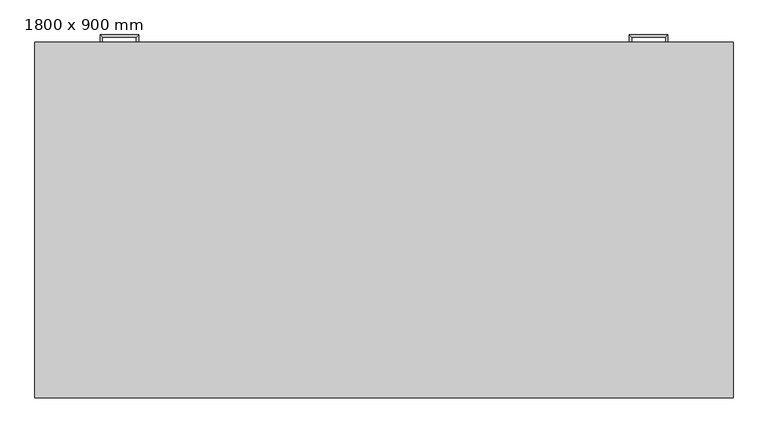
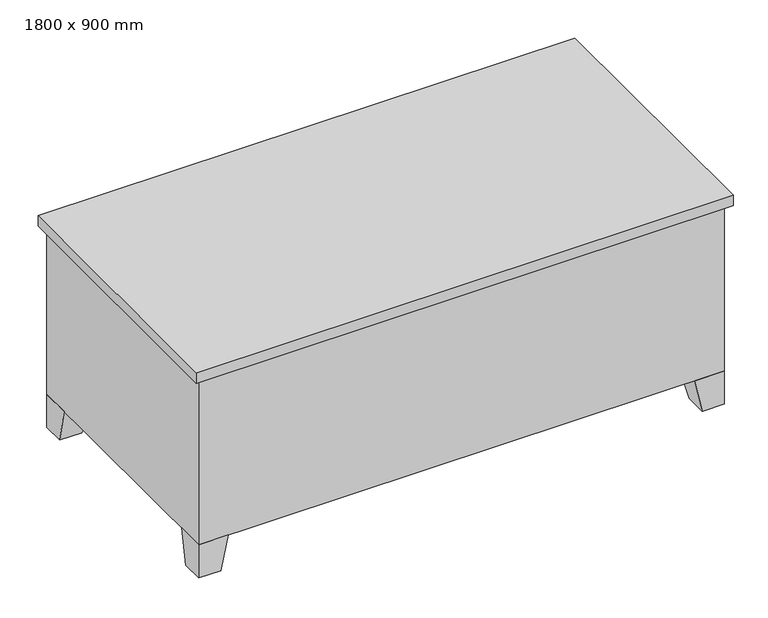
"""IFC4 building model written with IfcOpenShell, lengths in millimetres: furniture geometry, 辦公桌 (1) : 1800 x 900 mm."""

from ifc_helpers import new_model, si_unit, frame, origin, place, context, project, spatial, polyline, outline, extrude, faceted_brep, source, transform, mapped, element, save


def furniture_1800_x_900_mm_2e0cac71(model_context):
    return source(origin(), model_context, "Body", "SolidModel", [
        extrude(outline(polyline([(1780.95, 900.0), (1412.65, 900.0), (1412.65, 912.7), (1780.95, 912.7), (1780.95, 900.0)])), frame((0.0, 0.0, 603.25), z_axis=(0.0, 0.0, 1.0), x_axis=(1.0, 0.0, 0.0)), (0.0, 0.0, 1.0), 101.6),
        extrude(outline(polyline([(1780.95, 900.0), (1412.65, 900.0), (1412.65, 912.7), (1780.95, 912.7), (1780.95, 900.0)])), frame((0.0, 0.0, 139.05), z_axis=(0.0, 0.0, 1.0), x_axis=(1.0, 0.0, 0.0)), (0.0, 0.0, 1.0), 445.15),
        extrude(outline(polyline([(387.35, 900.0), (19.05, 900.0), (19.05, 912.7), (387.35, 912.7), (387.35, 900.0)])), frame((0.0, 0.0, 570.85), z_axis=(0.0, 0.0, 1.0), x_axis=(1.0, 0.0, 0.0)), (0.0, 0.0, 1.0), 134.0),
        extrude(outline(polyline([(387.35, 900.0), (19.05, 900.0), (19.05, 912.7), (387.35, 912.7), (387.35, 900.0)])), frame((0.0, 0.0, 139.05), z_axis=(0.0, 0.0, 1.0), x_axis=(1.0, 0.0, 0.0)), (0.0, 0.0, 1.0), 171.45),
        extrude(outline(polyline([(387.35, 900.0), (19.05, 900.0), (19.05, 912.7), (387.35, 912.7), (387.35, 900.0)])), frame((0.0, 0.0, 450.2), z_axis=(0.0, 0.0, 1.0), x_axis=(1.0, 0.0, 0.0)), (0.0, 0.0, 1.0), 101.6),
        extrude(outline(polyline([(387.35, 900.0), (19.05, 900.0), (19.05, 912.7), (387.35, 912.7), (387.35, 900.0)])), frame((0.0, 0.0, 329.55), z_axis=(0.0, 0.0, 1.0), x_axis=(1.0, 0.0, 0.0)), (0.0, 0.0, 1.0), 101.6),
        faceted_brep([(1698.4, 900.0, 120.0), (1698.4, 798.4, 120.0), (1800.0, 798.4, 120.0), (1800.0, 900.0, 120.0), (1723.8, 900.0, 0.0), (1800.0, 900.0, 0.0), (1800.0, 823.8, 0.0), (1723.8, 823.8, 0.0)], [[[0, 1, 2, 3]], [[4, 5, 6, 7]], [[4, 7, 1, 0]], [[7, 6, 2, 1]], [[6, 5, 3, 2]], [[5, 4, 0, 3]]]),
        faceted_brep([(1698.4, 0.0, 120.0), (1800.0, 0.0, 120.0), (1800.0, 101.6, 120.0), (1698.4, 101.6, 120.0), (1723.8, 0.0, 0.0), (1723.8, 76.2, 0.0), (1800.0, 76.2, 0.0), (1800.0, 0.0, 0.0)], [[[0, 1, 2, 3]], [[4, 5, 6, 7]], [[4, 7, 1, 0]], [[7, 6, 2, 1]], [[6, 5, 3, 2]], [[5, 4, 0, 3]]]),
        faceted_brep([(101.6, 0.0, 120.0), (101.6, 101.6, 120.0), (0.0, 101.6, 120.0), (0.0, 0.0, 120.0), (76.2, 0.0, 0.0), (0.0, 0.0, 0.0), (0.0, 76.2, 0.0), (76.2, 76.2, 0.0)], [[[0, 1, 2, 3]], [[4, 5, 6, 7]], [[4, 7, 1, 0]], [[7, 6, 2, 1]], [[6, 5, 3, 2]], [[5, 4, 0, 3]]]),
        faceted_brep([(101.6, 900.0, 120.0), (0.0, 900.0, 120.0), (0.0, 798.4, 120.0), (101.6, 798.4, 120.0), (76.2, 900.0, 0.0), (76.2, 823.8, 0.0), (0.0, 823.8, 0.0), (0.0, 900.0, 0.0)], [[[0, 1, 2, 3]], [[4, 5, 6, 7]], [[4, 7, 1, 0]], [[7, 6, 2, 1]], [[6, 5, 3, 2]], [[5, 4, 0, 3]]]),
        extrude(outline(polyline([(1819.05, 919.05), (1819.05, -19.05), (-19.05, -19.05), (-19.05, 919.05), (1819.05, 919.05)])), frame((0.0, 0.0, 723.9), z_axis=(0.0, 0.0, 1.0), x_axis=(1.0, 0.0, 0.0)), (0.0, 0.0, 1.0), 38.1),
        extrude(outline(polyline([(406.4, 900.0), (406.4, 50.8), (1393.6, 50.8), (1393.6, 900.0), (1800.0, 900.0), (1800.0, 0.0), (0.0, 0.0), (0.0, 900.0), (406.4, 900.0)])), frame((0.0, 0.0, 120.0), z_axis=(0.0, 0.0, 1.0), x_axis=(1.0, 0.0, 0.0)), (0.0, 0.0, 1.0), 603.9),
        faceted_brep([(1641.25, 912.7, 546.1), (1641.25, 912.7, 533.4), (1647.6, 912.7, 533.4), (1647.6, 912.7, 546.1), (1641.25, 931.75, 546.1), (1641.25, 931.75, 533.4), (1647.6, 938.1, 533.4), (1647.6, 938.1, 546.1), (1552.35, 931.75, 546.1), (1552.35, 931.75, 533.4), (1546.0, 938.1, 533.4), (1546.0, 938.1, 546.1), (1552.35, 912.7, 546.1), (1546.0, 912.7, 546.1), (1546.0, 912.7, 533.4), (1552.35, 912.7, 533.4)], [[[0, 1, 2, 3]], [[1, 0, 4, 5]], [[2, 1, 5, 6]], [[3, 2, 6, 7]], [[0, 3, 7, 4]], [[5, 4, 8, 9]], [[6, 5, 9, 10]], [[7, 6, 10, 11]], [[4, 7, 11, 8]], [[12, 13, 14, 15]], [[9, 8, 12, 15]], [[10, 9, 15, 14]], [[11, 10, 14, 13]], [[8, 11, 13, 12]]]),
        faceted_brep([(1641.25, 912.7, 666.75), (1641.25, 912.7, 654.05), (1647.6, 912.7, 654.05), (1647.6, 912.7, 666.75), (1641.25, 931.75, 666.75), (1641.25, 931.75, 654.05), (1647.6, 938.1, 654.05), (1647.6, 938.1, 666.75), (1552.35, 931.75, 666.75), (1552.35, 931.75, 654.05), (1546.0, 938.1, 654.05), (1546.0, 938.1, 666.75), (1552.35, 912.7, 666.75), (1546.0, 912.7, 666.75), (1546.0, 912.7, 654.05), (1552.35, 912.7, 654.05)], [[[0, 1, 2, 3]], [[1, 0, 4, 5]], [[2, 1, 5, 6]], [[3, 2, 6, 7]], [[0, 3, 7, 4]], [[5, 4, 8, 9]], [[6, 5, 9, 10]], [[7, 6, 10, 11]], [[4, 7, 11, 8]], [[12, 13, 14, 15]], [[9, 8, 12, 15]], [[10, 9, 15, 14]], [[11, 10, 14, 13]], [[8, 11, 13, 12]]]),
        faceted_brep([(158.75, 912.7, 304.8), (152.4, 912.7, 304.8), (152.4, 912.7, 292.1), (158.75, 912.7, 292.1), (158.75, 931.75, 304.8), (152.4, 938.1, 304.8), (152.4, 938.1, 292.1), (158.75, 931.75, 292.1), (247.65, 931.75, 304.8), (254.0, 938.1, 304.8), (254.0, 938.1, 292.1), (247.65, 931.75, 292.1), (247.65, 912.7, 304.8), (247.65, 912.7, 292.1), (254.0, 912.7, 292.1), (254.0, 912.7, 304.8)], [[[0, 1, 2, 3]], [[1, 0, 4, 5]], [[2, 1, 5, 6]], [[3, 2, 6, 7]], [[0, 3, 7, 4]], [[5, 4, 8, 9]], [[6, 5, 9, 10]], [[7, 6, 10, 11]], [[4, 7, 11, 8]], [[12, 13, 14, 15]], [[9, 8, 12, 15]], [[10, 9, 15, 14]], [[11, 10, 14, 13]], [[8, 11, 13, 12]]]),
        faceted_brep([(158.75, 912.7, 425.45), (152.4, 912.7, 425.45), (152.4, 912.7, 412.75), (158.75, 912.7, 412.75), (158.75, 931.75, 425.45), (152.4, 938.1, 425.45), (152.4, 938.1, 412.75), (158.75, 931.75, 412.75), (247.65, 931.75, 425.45), (254.0, 938.1, 425.45), (254.0, 938.1, 412.75), (247.65, 931.75, 412.75), (247.65, 912.7, 425.45), (247.65, 912.7, 412.75), (254.0, 912.7, 412.75), (254.0, 912.7, 425.45)], [[[0, 1, 2, 3]], [[1, 0, 4, 5]], [[2, 1, 5, 6]], [[3, 2, 6, 7]], [[0, 3, 7, 4]], [[5, 4, 8, 9]], [[6, 5, 9, 10]], [[7, 6, 10, 11]], [[4, 7, 11, 8]], [[12, 13, 14, 15]], [[9, 8, 12, 15]], [[10, 9, 15, 14]], [[11, 10, 14, 13]], [[8, 11, 13, 12]]]),
        faceted_brep([(158.75, 912.7, 546.1), (152.4, 912.7, 546.1), (152.4, 912.7, 533.4), (158.75, 912.7, 533.4), (158.75, 931.75, 546.1), (152.4, 938.1, 546.1), (152.4, 938.1, 533.4), (158.75, 931.75, 533.4), (247.65, 931.75, 546.1), (254.0, 938.1, 546.1), (254.0, 938.1, 533.4), (247.65, 931.75, 533.4), (247.65, 912.7, 546.1), (247.65, 912.7, 533.4), (254.0, 912.7, 533.4), (254.0, 912.7, 546.1)], [[[0, 1, 2, 3]], [[1, 0, 4, 5]], [[2, 1, 5, 6]], [[3, 2, 6, 7]], [[0, 3, 7, 4]], [[5, 4, 8, 9]], [[6, 5, 9, 10]], [[7, 6, 10, 11]], [[4, 7, 11, 8]], [[12, 13, 14, 15]], [[9, 8, 12, 15]], [[10, 9, 15, 14]], [[11, 10, 14, 13]], [[8, 11, 13, 12]]]),
        faceted_brep([(158.75, 912.7, 666.75), (152.4, 912.7, 666.75), (152.4, 912.7, 654.05), (158.75, 912.7, 654.05), (158.75, 931.75, 666.75), (152.4, 938.1, 666.75), (152.4, 938.1, 654.05), (158.75, 931.75, 654.05), (247.65, 931.75, 666.75), (254.0, 938.1, 666.75), (254.0, 938.1, 654.05), (247.65, 931.75, 654.05), (247.65, 912.7, 666.75), (247.65, 912.7, 654.05), (254.0, 912.7, 654.05), (254.0, 912.7, 666.75)], [[[0, 1, 2, 3]], [[1, 0, 4, 5]], [[2, 1, 5, 6]], [[3, 2, 6, 7]], [[0, 3, 7, 4]], [[5, 4, 8, 9]], [[6, 5, 9, 10]], [[7, 6, 10, 11]], [[4, 7, 11, 8]], [[12, 13, 14, 15]], [[9, 8, 12, 15]], [[10, 9, 15, 14]], [[11, 10, 14, 13]], [[8, 11, 13, 12]]]),
    ])


if __name__ == "__main__":
    model = new_model("IFC4")
    model_context = context("Model", 3, world=origin())
    ifc_project = project(units=[si_unit("LENGTHUNIT", "METRE", prefix="MILLI")], contexts=[model_context])
    site = spatial("IfcSite", under=ifc_project)
    building = spatial("IfcBuilding", under=site)
    placement = place(None, origin())
    furniture_1800_x_900_mm_shape = furniture_1800_x_900_mm_2e0cac71(model_context)
    element("IfcFurniture", 1, ObjectType="辦公桌 (1) : 1800 x 900 mm", at=placement, inside=building, context=model_context, shape_type="MappedRepresentation", body=[
        mapped(furniture_1800_x_900_mm_shape, transform((0.0, 0.0, 0.0), x_axis=(1.0, 0.0, 0.0), y_axis=(0.0, 1.0, 0.0), z_axis=(0.0, 0.0, 1.0))),
    ])
    save(model, "model.ifc")
